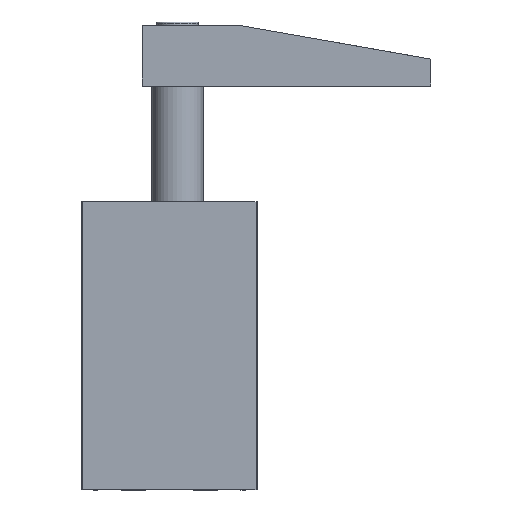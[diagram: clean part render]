
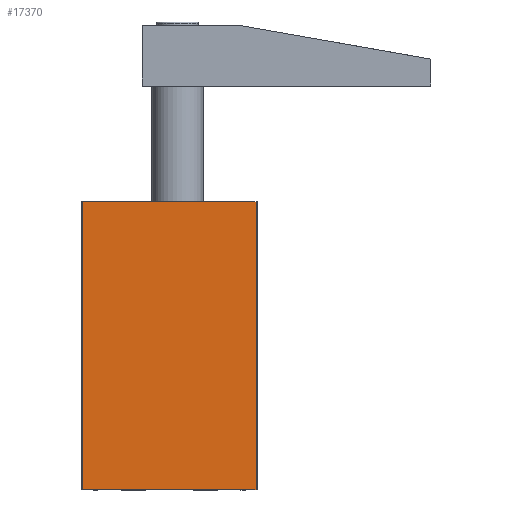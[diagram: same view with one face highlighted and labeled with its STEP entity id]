
A CAD part, front view. The second image highlights one B-rep face of the part: STEP entity #17370.
In plain terms, the highlighted planar face has unit normal (0, -1, 0).
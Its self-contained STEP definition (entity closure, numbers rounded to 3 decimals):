
#6333 = CARTESIAN_POINT ( 'NONE',  ( 24.5, -35., 0. ) ) ;
#6334 = CARTESIAN_POINT ( 'NONE',  ( -29.5, -35., 0. ) ) ;
#6346 = CARTESIAN_POINT ( 'NONE',  ( -29.5, -35., 90. ) ) ;
#6347 = CARTESIAN_POINT ( 'NONE',  ( 24.5, -35., 90. ) ) ;
#8841 = VECTOR ( 'NONE', #10674, 1000. ) ;
#8859 = VECTOR ( 'NONE', #10930, 1000. ) ;
#8884 = VECTOR ( 'NONE', #11005, 1000. ) ;
#8885 = VECTOR ( 'NONE', #11008, 1000. ) ;
#10672 = LINE ( 'NONE', #10673, #8841 ) ;
#10673 = CARTESIAN_POINT ( 'NONE',  ( 24.5, -35., 0. ) ) ;
#10674 = DIRECTION ( 'NONE',  ( 1., 0., 0. ) ) ;
#10928 = LINE ( 'NONE', #10929, #8859 ) ;
#10929 = CARTESIAN_POINT ( 'NONE',  ( 24.5, -35., 90. ) ) ;
#10930 = DIRECTION ( 'NONE',  ( 1., 0., 0. ) ) ;
#11003 = LINE ( 'NONE', #11004, #8884 ) ;
#11004 = CARTESIAN_POINT ( 'NONE',  ( -29.5, -35., 90. ) ) ;
#11005 = DIRECTION ( 'NONE',  ( 0., 0., -1. ) ) ;
#11006 = LINE ( 'NONE', #11007, #8885 ) ;
#11007 = CARTESIAN_POINT ( 'NONE',  ( 24.5, -35., 90. ) ) ;
#11008 = DIRECTION ( 'NONE',  ( 0., 0., -1. ) ) ;
#17370 = ADVANCED_FACE ( 'NONE', ( #17718 ), #25121, .F. ) ;
#17718 = FACE_OUTER_BOUND ( 'NONE', #18192, .T. ) ;
#17721 = AXIS2_PLACEMENT_3D ( 'NONE', #25122, #25123, #25124 ) ;
#18192 = EDGE_LOOP ( 'NONE', ( #21715, #21716, #21713, #21718 ) ) ;
#20085 = VERTEX_POINT ( 'NONE', #6333 ) ;
#20086 = VERTEX_POINT ( 'NONE', #6334 ) ;
#20098 = VERTEX_POINT ( 'NONE', #6346 ) ;
#20099 = VERTEX_POINT ( 'NONE', #6347 ) ;
#21086 = EDGE_CURVE ( 'NONE', #20086, #20085, #10672, .T. ) ;
#21117 = EDGE_CURVE ( 'NONE', #20098, #20099, #10928, .T. ) ;
#21142 = EDGE_CURVE ( 'NONE', #20098, #20086, #11003, .T. ) ;
#21143 = EDGE_CURVE ( 'NONE', #20099, #20085, #11006, .T. ) ;
#21713 = ORIENTED_EDGE ( 'NONE', *, *, #21117, .F. ) ;
#21715 = ORIENTED_EDGE ( 'NONE', *, *, #21086, .T. ) ;
#21716 = ORIENTED_EDGE ( 'NONE', *, *, #21143, .F. ) ;
#21718 = ORIENTED_EDGE ( 'NONE', *, *, #21142, .T. ) ;
#25121 = PLANE ( 'NONE',  #17721 ) ;
#25122 = CARTESIAN_POINT ( 'NONE',  ( 24.5, -35., 90. ) ) ;
#25123 = DIRECTION ( 'NONE',  ( 0., 1., 0. ) ) ;
#25124 = DIRECTION ( 'NONE',  ( 0., 0., 1. ) ) ;
